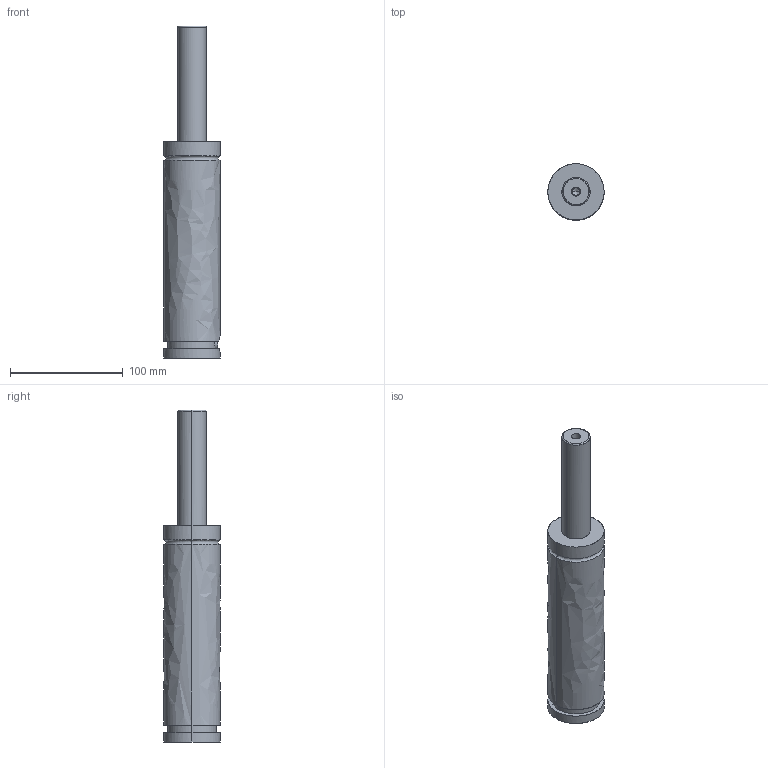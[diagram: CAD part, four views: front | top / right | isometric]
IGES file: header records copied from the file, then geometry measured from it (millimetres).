
Global section: file name: E:\UnigraphicsGraphicData\MISUMI_PRESS-PARTS\IGES\3d_gse50-100_03860_r00.igs; native system: NX V5.0; preprocessor: UGS NX IGES V5.0; author: MISUMI; date: 20110105.160758; units: millimetre
Bounding box: 50 x 50 x 295 mm (x, y, z)
Surface area: 44693.2 mm2 (no closed solid volume)
Topology: 0 solids, 0 shells, 57 faces, 453 edges, 451 vertices
Faces by surface type: bspline 57
